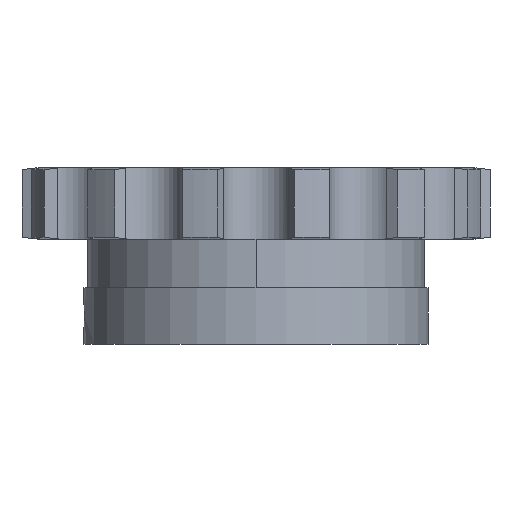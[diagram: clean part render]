
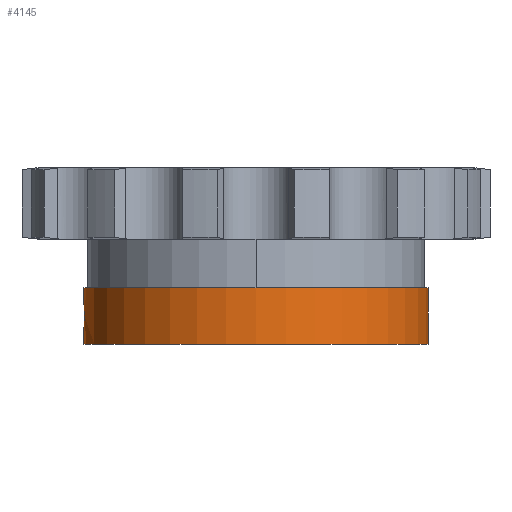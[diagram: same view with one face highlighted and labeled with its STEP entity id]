
A CAD part, front view. The second image highlights one B-rep face of the part: STEP entity #4145.
In plain terms, the highlighted cylindrical face has radius 39 mm (diameter 78 mm), a partial arc.
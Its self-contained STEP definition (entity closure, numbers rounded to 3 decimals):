
#1002=CARTESIAN_POINT('',(-39.,0.,
-22.5));
#1025=DIRECTION('',(0.,0.,1.));
#1026=VECTOR('',#1025,12.8);
#1027=CARTESIAN_POINT('',(39.,0.,-31.9));
#1028=LINE('',#1027,#1026);
#1154=CARTESIAN_POINT('',(-39.,0.,
-22.5));
#1155=CARTESIAN_POINT('',(-39.,-0.126,
-22.5));
#1156=CARTESIAN_POINT('',(-38.999,-0.405,
-22.517));
#1157=CARTESIAN_POINT('',(-38.992,-0.832,
-22.602));
#1158=CARTESIAN_POINT('',(-38.98,-1.265,
-22.758));
#1159=CARTESIAN_POINT('',(-38.965,-1.67,
-22.976));
#1160=CARTESIAN_POINT('',(-38.947,-2.034,
-23.25));
#1161=CARTESIAN_POINT('',(-38.929,-2.352,
-23.574));
#1162=CARTESIAN_POINT('',(-38.912,-2.618,
-23.941));
#1163=CARTESIAN_POINT('',(-38.898,-2.826,
-24.344));
#1164=CARTESIAN_POINT('',(-38.887,-2.969,
-24.77));
#1165=CARTESIAN_POINT('',(-38.882,-3.037,
-25.159));
#1166=CARTESIAN_POINT('',(-38.881,-3.049,
-25.403));
#1167=CARTESIAN_POINT('',(-38.881,-3.049,
-25.5));
#1172=DIRECTION('',(0.,0.,1.));
#1173=VECTOR('',#1172,3.4);
#1174=CARTESIAN_POINT('',(-39.,0.,
-22.5));
#1175=LINE('',#1174,#1173);
#1179=CARTESIAN_POINT('',(0.,0.,-19.1));
#1180=DIRECTION('',(0.,0.,1.));
#1181=DIRECTION('',(-1.,0.,0.));
#1182=AXIS2_PLACEMENT_3D('',#1179,#1180,#1181);
#1187=DIRECTION('',(0.,0.,1.));
#1188=VECTOR('',#1187,3.4);
#1189=CARTESIAN_POINT('',(-39.,0.,-31.9));
#1190=LINE('',#1189,#1188);
#1194=CARTESIAN_POINT('',(-38.881,-3.049,
-25.5));
#1195=CARTESIAN_POINT('',(-38.881,-3.049,
-25.61));
#1196=CARTESIAN_POINT('',(-38.882,-3.035,
-25.864));
#1197=CARTESIAN_POINT('',(-38.888,-2.96,
-26.263));
#1198=CARTESIAN_POINT('',(-38.899,-2.814,
-26.684));
#1199=CARTESIAN_POINT('',(-38.913,-2.604,
-27.082));
#1200=CARTESIAN_POINT('',(-38.93,-2.337,
-27.443));
#1201=CARTESIAN_POINT('',(-38.948,-2.02,
-27.762));
#1202=CARTESIAN_POINT('',(-38.965,-1.656,
-28.032));
#1203=CARTESIAN_POINT('',(-38.981,-1.255,
-28.247));
#1204=CARTESIAN_POINT('',(-38.992,-0.824,
-28.4));
#1205=CARTESIAN_POINT('',(-38.999,-0.401,
-28.483));
#1206=CARTESIAN_POINT('',(-39.,-0.125,
-28.5));
#1207=CARTESIAN_POINT('',(-39.,0.,
-28.5));
#1220=CARTESIAN_POINT('',(0.,0.,-31.9));
#1221=DIRECTION('',(0.,0.,-1.));
#1222=DIRECTION('',(1.,0.,0.));
#1223=AXIS2_PLACEMENT_3D('',#1220,#1221,#1222);
#2697=CARTESIAN_POINT('',(-39.,0.,-31.9));
#2698=CARTESIAN_POINT('',(39.,0.,-31.9));
#2699=VERTEX_POINT('',#2697);
#2700=VERTEX_POINT('',#2698);
#2842=VERTEX_POINT('',#1002);
#2845=VERTEX_POINT('',#1167);
#2847=VERTEX_POINT('',#1207);
#2857=CARTESIAN_POINT('',(39.,0.,-19.1));
#2858=CARTESIAN_POINT('',(-39.,0.,-19.1));
#2859=VERTEX_POINT('',#2857);
#2860=VERTEX_POINT('',#2858);
#4129=CARTESIAN_POINT('',(0.,0.,8.1));
#4130=DIRECTION('',(0.,0.,1.));
#4131=DIRECTION('',(1.,0.,0.));
#4132=AXIS2_PLACEMENT_3D('',#4129,#4130,#4131);
#4133=CYLINDRICAL_SURFACE('',#4132,39.);
#4134=ORIENTED_EDGE('',*,*,#4119,.F.);
#4135=ORIENTED_EDGE('',*,*,#3734,.T.);
#4136=ORIENTED_EDGE('',*,*,#3709,.T.);
#4137=ORIENTED_EDGE('',*,*,#3731,.F.);
#4139=ORIENTED_EDGE('',*,*,#4138,.T.);
#4140=ORIENTED_EDGE('',*,*,#3727,.T.);
#4142=ORIENTED_EDGE('',*,*,#4141,.F.);
#4143=EDGE_LOOP('',(#4134,#4135,#4136,#4137,#4139,#4140,#4142));
#4144=FACE_OUTER_BOUND('',#4143,.F.);
#4145=ADVANCED_FACE('',(#4144),#4133,.T.);
#1168=B_SPLINE_CURVE_WITH_KNOTS('',3,(#1154,#1155,#1156,#1157,#1158,#1159,#1160,
#1161,#1162,#1163,#1164,#1165,#1166,#1167),.UNSPECIFIED.,.F.,.F.,(4,1,1,1,1,1,1,
1,1,1,1,4),(0.,0.078,0.174,0.269,
0.364,0.459,0.555,0.65,
0.745,0.84,0.935,1.),.UNSPECIFIED.);
#1183=CIRCLE('',#1182,39.);
#1208=B_SPLINE_CURVE_WITH_KNOTS('',3,(#1194,#1195,#1196,#1197,#1198,#1199,#1200,
#1201,#1202,#1203,#1204,#1205,#1206,#1207),.UNSPECIFIED.,.F.,.F.,(4,1,1,1,1,1,1,
1,1,1,1,4),(0.,0.073,0.167,0.262,
0.356,0.45,0.545,0.639,
0.734,0.828,0.922,1.),.UNSPECIFIED.);
#1224=CIRCLE('',#1223,39.);
#3709=EDGE_CURVE('',#2860,#2859,#1183,.T.);
#3727=EDGE_CURVE('',#2699,#2847,#1190,.T.);
#3731=EDGE_CURVE('',#2700,#2859,#1028,.T.);
#3734=EDGE_CURVE('',#2842,#2860,#1175,.T.);
#4119=EDGE_CURVE('',#2842,#2845,#1168,.T.);
#4138=EDGE_CURVE('',#2700,#2699,#1224,.T.);
#4141=EDGE_CURVE('',#2845,#2847,#1208,.T.);
